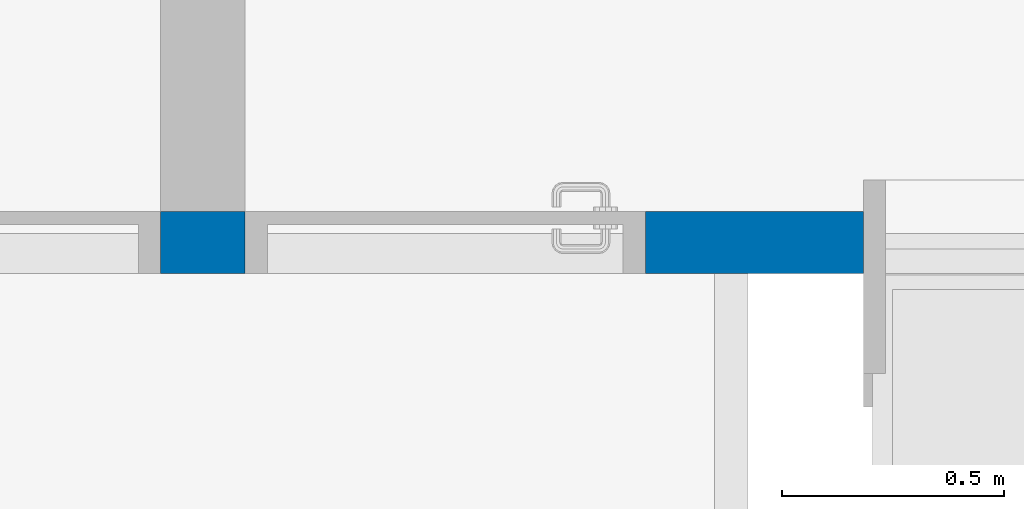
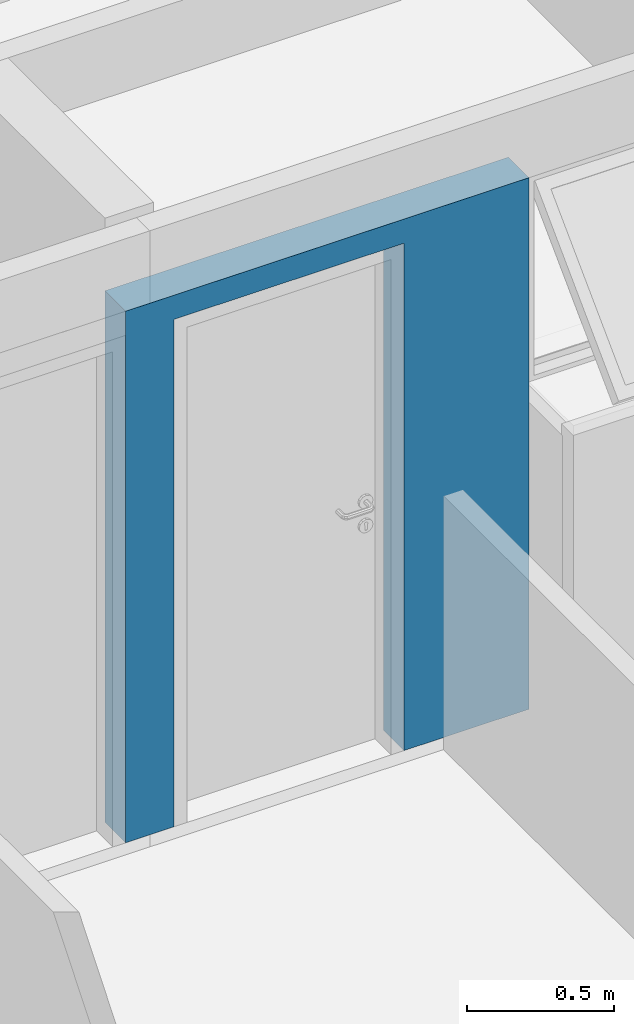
# One storey, part 22 of 38: 1 wall, 1 opening.
"""IFC2X3 building model written with IfcOpenShell, lengths in millimetres."""

import ifcopenshell
import ifcopenshell.guid

model = None  # the IFC model being written
_history = None  # IfcOwnerHistory: only IFC2X3 demands one
_inside = {}  # id of a spatial element -> (the spatial element, [elements in it])
_under = {}  # id of a project, library or spatial element -> (it, [spatial elements below it])
_declared = {}  # id of a project -> (the project, [libraries it declares])
_typed = {}  # id of a type object -> (the type object, [elements of that type])
_made_of = {}  # id of a material, layer set ... -> (it, [elements and type objects made of it])


def new_model(schema):
    """Start an empty IFC model of exactly this schema.

    Asked for "IFC4X3", IfcOpenShell would pick the latest addendum, in which some entities
    have other attributes; the version numbers below select the first issue.
    IFC2X3 requires an IfcOwnerHistory on every rooted entity: one is made here for all.
    """
    global model, _history
    if schema == "IFC4X3":
        model = ifcopenshell.file(schema_version=(4, 3, 0, 0))
    else:
        model = ifcopenshell.file(schema=schema)
    _inside.clear()
    _under.clear()
    _declared.clear()
    _typed.clear()
    _made_of.clear()
    _history = None
    if model.schema == "IFC2X3":
        org = make("IfcOrganization", Name="unknown")
        user = make(
            "IfcPersonAndOrganization",
            ThePerson=make("IfcPerson", FamilyName="unknown"),
            TheOrganization=org,
        )
        app = make(
            "IfcApplication",
            ApplicationDeveloper=org,
            Version="unknown",
            ApplicationFullName="unknown",
            ApplicationIdentifier="unknown",
        )
        _history = make(
            "IfcOwnerHistory",
            OwningUser=user,
            OwningApplication=app,
            ChangeAction="ADDED",
            CreationDate=0,
        )
    return model


def make(cls, **values):
    """One entity of the class cls with the attributes given. An attribute that is None is left unset."""
    return model.create_entity(
        cls, **{name: value for name, value in values.items() if value is not None}
    )


def entity(cls, *values):
    """Any entity or typed value of the class cls, its attributes in the order of the schema. None: left unset."""
    e = model.create_entity(cls)
    for i, value in enumerate(values):
        if value is not None:
            e[i] = value
    return e


def rooted(cls, **values):
    """An entity with a GlobalId (a new one), such as an element, a storey or a relation."""
    return make(cls, GlobalId=ifcopenshell.guid.new(), OwnerHistory=_history, **values)


def si_unit(unit_type, name, prefix=None):
    """IfcSIUnit, for example si_unit("LENGTHUNIT", "METRE", prefix="MILLI")."""
    return make("IfcSIUnit", UnitType=unit_type, Prefix=prefix, Name=name)


def converted_unit(unit_type, name, factor, base, dimensions=None, offset=None):
    """IfcConversionBasedUnit, such as the inch: factor (a typed value) times the base unit."""
    return make(
        "IfcConversionBasedUnit"
        if offset is None
        else "IfcConversionBasedUnitWithOffset",
        ConversionOffset=offset,
        Dimensions=None
        if dimensions is None
        else entity("IfcDimensionalExponents", *dimensions),
        UnitType=unit_type,
        Name=name,
        ConversionFactor=make(
            "IfcMeasureWithUnit", ValueComponent=factor, UnitComponent=base
        ),
    )


def derived_unit(unit_type, elements):
    """IfcDerivedUnit: a product of units, each with its exponent."""
    return make(
        "IfcDerivedUnit",
        Elements=[
            make("IfcDerivedUnitElement", Unit=unit, Exponent=power)
            for unit, power in elements
        ],
        UnitType=unit_type,
    )


def money_unit(currency):
    """IfcMonetaryUnit."""
    return make("IfcMonetaryUnit", Currency=currency)


def assignment(units):
    """IfcUnitAssignment: the units of a project."""
    return None if units is None else make("IfcUnitAssignment", Units=units)


def point(xyz):
    """IfcCartesianPoint."""
    return None if xyz is None else make("IfcCartesianPoint", Coordinates=xyz)


def direction(xyz):
    """IfcDirection."""
    return None if xyz is None else make("IfcDirection", DirectionRatios=xyz)


def frame(location, z_axis=None, x_axis=None):
    """IfcAxis2Placement3D, a coordinate frame: its origin and axes. An axis left out is left unset."""
    return make(
        "IfcAxis2Placement3D",
        Location=point(location),
        Axis=direction(z_axis),
        RefDirection=direction(x_axis),
    )


def frame_2d(location, x_axis=None):
    """IfcAxis2Placement2D, a coordinate frame in the plane: its origin and x axis."""
    return make(
        "IfcAxis2Placement2D", Location=point(location), RefDirection=direction(x_axis)
    )


def origin_with_axes():
    """The frame at (0, 0, 0) with the z axis (0, 0, 1) and the x axis (1, 0, 0) written out."""
    return frame((0.0, 0.0, 0.0), z_axis=(0.0, 0.0, 1.0), x_axis=(1.0, 0.0, 0.0))


def origin_2d_with_axis():
    """The frame at (0, 0) in the plane with the x axis (1, 0) written out."""
    return frame_2d((0.0, 0.0), x_axis=(1.0, 0.0))


def place(relative_to, where):
    """IfcLocalPlacement: puts the frame where relative to a parent placement (None: the world)."""
    return make(
        "IfcLocalPlacement", PlacementRelTo=relative_to, RelativePlacement=where
    )


def context(
    kind, dimensions, precision=None, world=None, true_north=None, identifier=None
):
    """IfcGeometricRepresentationContext, for example the 3D "Model" context."""
    return make(
        "IfcGeometricRepresentationContext",
        ContextIdentifier=identifier,
        ContextType=kind,
        CoordinateSpaceDimension=dimensions,
        Precision=precision,
        WorldCoordinateSystem=world,
        TrueNorth=true_north,
    )


def subcontext(parent, identifier, kind, view, scale=None):
    """IfcGeometricRepresentationSubContext, for example "Body" below "Model"."""
    return make(
        "IfcGeometricRepresentationSubContext",
        ContextIdentifier=identifier,
        ContextType=kind,
        ParentContext=parent,
        TargetScale=scale,
        TargetView=view,
    )


def project(units=None, contexts=None):
    """IfcProject with its units and contexts."""
    return rooted(
        "IfcProject",
        Name="project",
        RepresentationContexts=contexts,
        UnitsInContext=assignment(units),
    )


def spatial(cls, under=None, at=None, **own):
    """A site, building, storey or space (cls), placed at a placement, below another one or the project."""
    s = rooted(cls, ObjectPlacement=at, **own)
    if under is not None:
        _under.setdefault(under.id(), (under, []))[1].append(s)
    return s


def polyline(points):
    """IfcPolyline through the points."""
    return make("IfcPolyline", Points=[point(p) for p in points])


def profile(cls, at=None, kind="AREA", **sizes):
    """A parametric profile (cls). Its sizes go by their IFC names, for example OverallWidth=200.0."""
    return make(cls, ProfileType=kind, Position=at, **sizes)


def rectangle(**sizes):
    """IfcRectangleProfileDef."""
    return profile("IfcRectangleProfileDef", **sizes)


def outline(outer, holes=None, kind="AREA"):
    """IfcArbitraryClosedProfileDef: a profile drawn as a closed curve; with holes, ...WithVoids."""
    if holes is None:
        return make("IfcArbitraryClosedProfileDef", ProfileType=kind, OuterCurve=outer)
    return make(
        "IfcArbitraryProfileDefWithVoids",
        ProfileType=kind,
        OuterCurve=outer,
        InnerCurves=holes,
    )


def extrude(swept, where, along, depth):
    """IfcExtrudedAreaSolid: the profile swept, set in the frame where, extruded along a direction by depth."""
    return make(
        "IfcExtrudedAreaSolid",
        SweptArea=swept,
        Position=where,
        ExtrudedDirection=direction(along),
        Depth=depth,
    )


def shape(context_of_items, identifier, shape_type, items):
    """IfcShapeRepresentation: the items that make up one representation, for example the "Body"."""
    return make(
        "IfcShapeRepresentation",
        ContextOfItems=context_of_items,
        RepresentationIdentifier=identifier,
        RepresentationType=shape_type,
        Items=items,
    )


def material(Name=None, Category=None):
    """IfcMaterial."""
    return make("IfcMaterial", Name=Name, Category=Category)


def layer(
    of_material, thickness, ventilated=None, Name=None, Category=None, Priority=None
):
    """IfcMaterialLayer: one layer of a wall or slab, of a material (None: an air gap)."""
    return make(
        "IfcMaterialLayer",
        Material=of_material,
        LayerThickness=thickness,
        IsVentilated=ventilated,
        Name=Name,
        Category=Category,
        Priority=Priority,
    )


def layer_set(layers, Name=None):
    """IfcMaterialLayerSet."""
    return make("IfcMaterialLayerSet", MaterialLayers=layers, LayerSetName=Name)


def layer_usage(for_layer_set, set_direction, sense, offset, extent=None):
    """IfcMaterialLayerSetUsage: how a layer set lies in its element."""
    return make(
        "IfcMaterialLayerSetUsage",
        ForLayerSet=for_layer_set,
        LayerSetDirection=set_direction,
        DirectionSense=sense,
        OffsetFromReferenceLine=offset,
        ReferenceExtent=extent,
    )


def made_of(thing, what):
    """Note that an element or type object is made of a material, layer set ...; save() writes the relation."""
    if what is not None:
        _made_of.setdefault(what.id(), (what, []))[1].append(thing)
    return thing


def type_object(cls, material=None, **own):
    """A type object (cls), such as IfcWallType, which elements share."""
    return made_of(rooted(cls, **own), material)


def element(
    cls,
    number,
    at=None,
    inside=None,
    cuts=None,
    type_object=None,
    material=None,
    context=None,
    identifier="Body",
    shape_type=None,
    held_by="IfcProductDefinitionShape",
    body=None,
    shapes=None,
    **own,
):
    """One element of the class cls, such as IfcWall. Its Tag is "e" and its number.

    at: its placement. inside: the storey or other place that contains it. cuts: it is an
    opening in that element (IfcRelVoidsElement). A single representation is given by context,
    identifier, shape_type and body (its items); several are given by shapes. held_by: the class
    of the entity that holds the representations. save() writes the other relations.
    """
    e = rooted(cls, Tag="e%d" % number, ObjectPlacement=at, **own)
    if body is not None:
        shapes = [shape(context, identifier, shape_type, body)]
    if shapes is not None:
        e.Representation = make(held_by, Representations=shapes)
    if inside is not None:
        _inside.setdefault(inside.id(), (inside, []))[1].append(e)
    if cuts is not None:
        rooted(
            "IfcRelVoidsElement", RelatingBuildingElement=cuts, RelatedOpeningElement=e
        )
    if type_object is not None:
        _typed.setdefault(type_object.id(), (type_object, []))[1].append(e)
    return made_of(e, material)


def aggregate(whole, parts):
    """IfcRelAggregates: a whole, such as a stair, and the parts it consists of."""
    return rooted("IfcRelAggregates", RelatingObject=whole, RelatedObjects=parts)


def save(model, path):
    """Write the relations noted so far, then the file.

    IfcRelAggregates (storeys below a building ...), IfcRelContainedInSpatialStructure (elements
    in a storey), IfcRelDefinesByType, IfcRelAssociatesMaterial and IfcRelDeclares: one each for
    every whole, place, type object, material and project.
    """
    for whole, parts in _under.values():
        aggregate(whole, parts)
    for where, things in _inside.values():
        rooted(
            "IfcRelContainedInSpatialStructure",
            RelatedElements=things,
            RelatingStructure=where,
        )
    for kind, things in _typed.values():
        rooted("IfcRelDefinesByType", RelatedObjects=things, RelatingType=kind)
    for what, things in _made_of.values():
        rooted("IfcRelAssociatesMaterial", RelatedObjects=things, RelatingMaterial=what)
    for by, libraries in _declared.values():
        rooted("IfcRelDeclares", RelatingContext=by, RelatedDefinitions=libraries)
    model.write(path)


model = new_model("IFC2X3")

# Units and contexts
model_context = context("Model", 3, precision=0.01, world=origin_with_axes(), true_north=direction((0.0, 1.0)))
body_context = subcontext(model_context, "Body", "Model", "MODEL_VIEW")
ifc_project = project(units=[si_unit("LENGTHUNIT", "METRE", prefix="MILLI"), si_unit("AREAUNIT", "SQUARE_METRE"), si_unit("VOLUMEUNIT", "CUBIC_METRE"), converted_unit("PLANEANGLEUNIT", "DEGREE", entity("IfcPlaneAngleMeasure", 0.0174532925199), si_unit("PLANEANGLEUNIT", "RADIAN"), dimensions=[0, 0, 0, 0, 0, 0, 0]), money_unit("USD"), converted_unit("TIMEUNIT", "Year", entity("IfcTimeMeasure", 31556926.0), si_unit("TIMEUNIT", "SECOND"), dimensions=[0, 0, 1, 0, 0, 0, 0]), si_unit("MASSUNIT", "GRAM", prefix="KILO"), si_unit("THERMODYNAMICTEMPERATUREUNIT", "DEGREE_CELSIUS"), si_unit("LUMINOUSINTENSITYUNIT", "LUMEN"), si_unit("ENERGYUNIT", "JOULE", prefix="MEGA"), derived_unit("THERMALCONDUCTANCEUNIT", [(si_unit("POWERUNIT", "WATT"), 1), (si_unit("LENGTHUNIT", "METRE"), -1), (si_unit("THERMODYNAMICTEMPERATUREUNIT", "KELVIN"), -1)]), derived_unit("SPECIFICHEATCAPACITYUNIT", [(si_unit("ENERGYUNIT", "JOULE"), 1), (si_unit("MASSUNIT", "GRAM", prefix="KILO"), -1), (si_unit("THERMODYNAMICTEMPERATUREUNIT", "KELVIN"), -1)]), derived_unit("MASSDENSITYUNIT", [(si_unit("MASSUNIT", "GRAM", prefix="KILO"), 1), (si_unit("VOLUMEUNIT", "CUBIC_METRE"), -1)])], contexts=[model_context])

# Site, building, storey
site_placement = place(None, origin_with_axes())
site = spatial("IfcSite", under=ifc_project, at=site_placement, Name="Local", CompositionType="ELEMENT")
building_placement = place(site_placement, origin_with_axes())
building = spatial("IfcBuilding", under=site, at=building_placement, Name="Construção", CompositionType="ELEMENT")
storey_placement = place(building_placement, frame((0.0, 0.0, 2650.0), z_axis=(0.0, 0.0, 1.0), x_axis=(1.0, 0.0, 0.0)))
storey = spatial("IfcBuildingStorey", under=building, at=storey_placement, Name="Segundo Pavimento", CompositionType="ELEMENT", Elevation=2650.0)

# Wall, opening
ifc_material = material(Name="GENÉRICO - VEDAÇÃO EXTERNA")
ifc_layer = layer(ifc_material, 140.0, ventilated="UNKNOWN")
ifc_layer_set = layer_set([ifc_layer], Name="GENÉRICO - VEDAÇÃO EXTERNA 140")
ifc_layer_usage = layer_usage(ifc_layer_set, "AXIS2", "NEGATIVE", 0.0)
wall_type = type_object("IfcWallType", Name="GENÉRICO - VEDAÇÃO EXTERNA 140", PredefinedType="NOTDEFINED")
wall_placement = place(storey_placement, frame((7290.0, 18035.0, 0.0), z_axis=(0.0, 0.0, 1.0), x_axis=(1.0, 0.0, 0.0)))
wall = element("IfcWallStandardCase", 1, at=wall_placement, inside=storey, type_object=wall_type, material=ifc_layer_usage, Name="APTO8-PAREDE-004", context=body_context, shape_type="SweptSolid", body=[
    extrude(outline(polyline([(0.0, -140.0), (1580.0, -140.0), (1580.0, 0.0), (0.0, 0.0), (0.0, -140.0)])), origin_with_axes(), (0.0, 0.0, 1.0), 2200.0),
])
opening_placement = place(wall_placement, frame((640.0, 0.0, 0.0), z_axis=(0.0, 0.0, 1.0), x_axis=(1.0, 0.0, 0.0)))
element("IfcOpeningElement", 2, at=opening_placement, cuts=wall, Name="APTO8-PORTA-004", context=body_context, shape_type="SweptSolid", body=[
    extrude(rectangle(XDim=900.0, YDim=2100.0, at=origin_2d_with_axis()), frame((0.0, 140.0, 1050.0), z_axis=(0.0, 1.0, 0.0), x_axis=(-1.0, 0.0, 0.0)), (0.0, 0.0, -1.0), 420.0),
])

save(model, "model.ifc")
